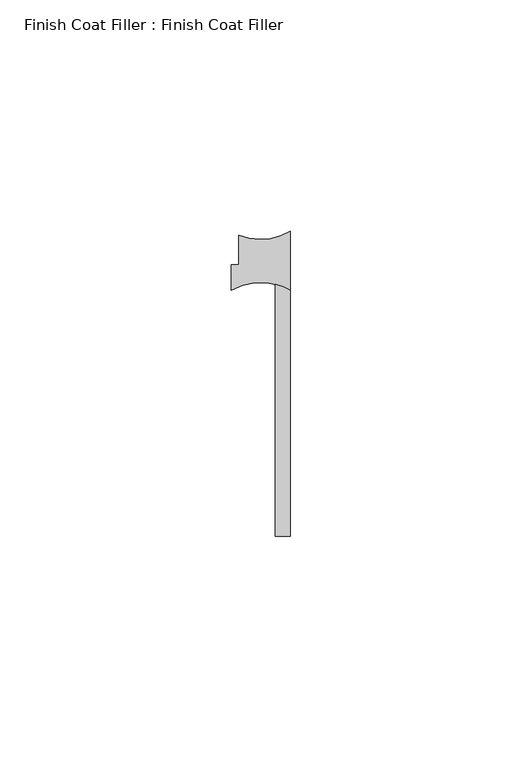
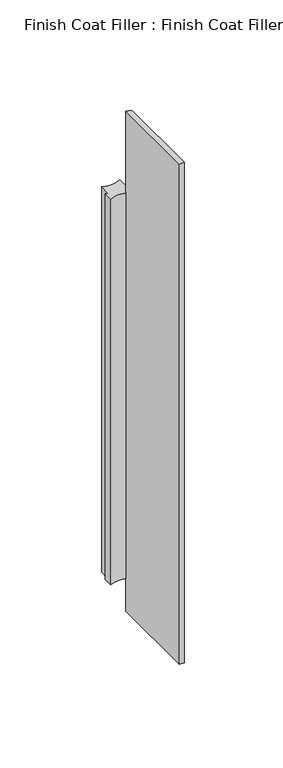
"""IFC4 building model written with IfcOpenShell, lengths in millimetres: proxy geometry, Finish Coat Filler : Finish Coat Filler."""

from ifc_helpers import new_model, si_unit, point, frame, frame_2d, origin, place, context, project, spatial, polyline, circle_curve, trimmed, segment, composite_curve, outline, extrude, source, transform, mapped, element, save


def finish_coat_filler_finish_coat_filler_41560683(model_context):
    return source(origin(), model_context, "Body", "SweptSolid", [
        extrude(outline(composite_curve([segment(polyline([(26843.1851773, 591.9128797), (26843.1851773, 597.4691297), (26844.7726773, 597.4691297), (26844.7726773, 603.8381872)]), True, "CONTINUOUS"), segment(trimmed(circle_curve(frame_2d((26849.5351773, 615.6114023)), 12.7), [point((26844.7726773, 603.8381872))], [point((26855.8851773, 604.6128797))], True, "CARTESIAN"), True, "CONTINUOUS"), segment(polyline([(26855.8851773, 604.6128797), (26855.8851773, 591.9128797)]), True, "CONTINUOUS"), segment(trimmed(circle_curve(frame_2d((26849.5351773, 580.914357)), 12.7), [point((26855.8851773, 591.9128797))], [point((26843.1851773, 591.9128797))], True, "CARTESIAN"), True, "CONTINUOUS")], self_intersect=False)), frame((0.0, 0.0, 471.4875), z_axis=(0.0, 0.0, 1.0), x_axis=(1.0, 0.0, 0.0)), (0.0, 0.0, 1.0), 239.7125),
        extrude(outline(composite_curve([segment(polyline([(26852.7101773, 538.7316297), (26852.7101773, 593.2110791)]), True, "CONTINUOUS"), segment(trimmed(circle_curve(frame_2d((26849.5351773, 580.914357)), 12.7), [point((26852.7101773, 593.2110791))], [point((26855.8851773, 591.9128797))], False, "CARTESIAN"), True, "CONTINUOUS"), segment(polyline([(26855.8851773, 591.9128797), (26855.8851773, 538.7316297), (26852.7101773, 538.7316297)]), True, "CONTINUOUS")], self_intersect=False)), frame((0.0, 0.0, 450.975778), z_axis=(0.0, 0.0, 1.0), x_axis=(1.0, 0.0, 0.0)), (0.0, 0.0, 1.0), 311.024222),
    ])


if __name__ == "__main__":
    model = new_model("IFC4")
    model_context = context("Model", 3, world=origin())
    ifc_project = project(units=[si_unit("LENGTHUNIT", "METRE", prefix="MILLI")], contexts=[model_context])
    site = spatial("IfcSite", under=ifc_project)
    building = spatial("IfcBuilding", under=site)
    placement = place(None, origin())
    finish_coat_filler_finish_coat_filler_shape = finish_coat_filler_finish_coat_filler_41560683(model_context)
    element("IfcBuildingElementProxy", 1, Name="Finish Coat Filler : Finish Coat Filler", ObjectType="Finish Coat Filler : Finish Coat Filler", at=placement, inside=building, context=model_context, shape_type="MappedRepresentation", body=[
        mapped(finish_coat_filler_finish_coat_filler_shape, transform((0.0, 0.0, 0.0), x_axis=(1.0, 0.0, 0.0), y_axis=(0.0, 1.0, 0.0), z_axis=(0.0, 0.0, 1.0))),
    ])
    save(model, "model.ifc")
